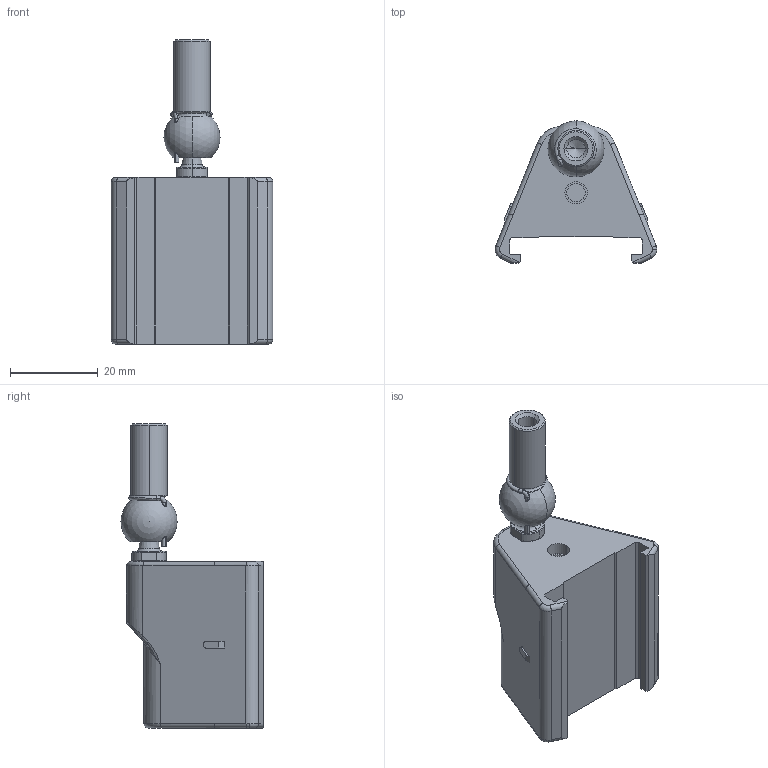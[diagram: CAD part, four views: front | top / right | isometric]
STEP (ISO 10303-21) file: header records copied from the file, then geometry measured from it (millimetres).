
FILE_DESCRIPTION (( 'STEP AP203' ), '1' );
FILE_NAME ('PCUR211.STEP', '2019-05-08T07:25:16', ( '' ), ( '' ), 'SwSTEP 2.0', 'SolidWorks 2019', '' );
FILE_SCHEMA (( 'CONFIG_CONTROL_DESIGN' ));
Length unit declared in the file: millimetre
Products named in the file (1): PCUR211
Bounding box: 36.91 x 32.4 x 69.38 mm (x, y, z)
Volume: 23766.7 mm3; surface area: 9393.7 mm2
Topology: 5 solids, 6 shells, 191 faces, 467 edges, 290 vertices
Faces by surface type: plane 65, cylinder 58, torus 40, cone 12, bspline 10, sphere 6
Entity records: 6149 total; most frequent: CARTESIAN_POINT 1667, DIRECTION 963, ORIENTED_EDGE 904, EDGE_CURVE 452, AXIS2_PLACEMENT_3D 388, VERTEX_POINT 283, CIRCLE 206, EDGE_LOOP 205
